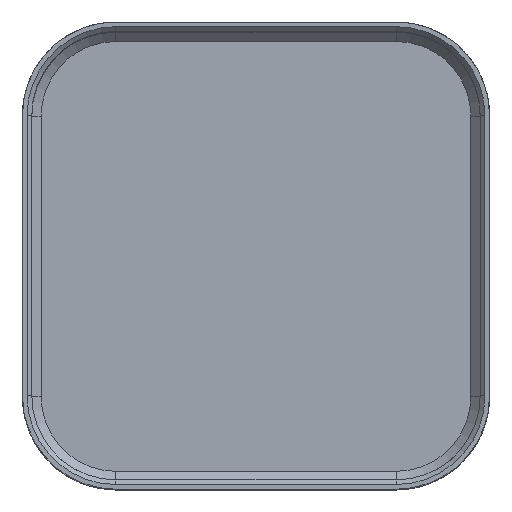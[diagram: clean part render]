
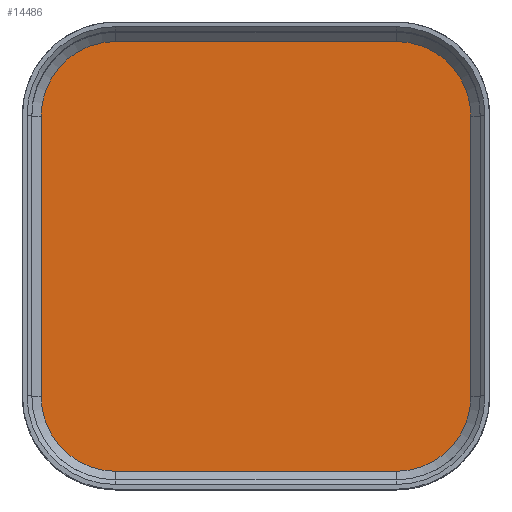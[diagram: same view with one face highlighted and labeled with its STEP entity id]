
A CAD part, top view. The second image highlights one B-rep face of the part: STEP entity #14486.
In plain terms, the highlighted planar face has unit normal (0, 0, 1).
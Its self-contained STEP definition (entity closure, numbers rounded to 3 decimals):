
#2234=CIRCLE('',#14963,16.);
#2236=CIRCLE('',#14967,16.);
#2238=CIRCLE('',#14971,16.);
#2240=CIRCLE('',#14975,16.);
#2906=FACE_OUTER_BOUND('',#3564,.T.);
#3564=EDGE_LOOP('',(#10362,#10363,#10364,#10365,#10366,#10367,#10368,#10369));
#4582=LINE('',#19130,#5200);
#4587=LINE('',#19144,#5205);
#4591=LINE('',#19156,#5209);
#4595=LINE('',#19168,#5213);
#5200=VECTOR('',#16147,10.);
#5205=VECTOR('',#16160,10.);
#5209=VECTOR('',#16172,10.);
#5213=VECTOR('',#16184,10.);
#5818=VERTEX_POINT('',#19127);
#5819=VERTEX_POINT('',#19129);
#5822=VERTEX_POINT('',#19136);
#5824=VERTEX_POINT('',#19142);
#5826=VERTEX_POINT('',#19148);
#5828=VERTEX_POINT('',#19154);
#5830=VERTEX_POINT('',#19160);
#5832=VERTEX_POINT('',#19166);
#7534=EDGE_CURVE('',#5818,#5819,#4582,.T.);
#7538=EDGE_CURVE('',#5822,#5818,#2234,.T.);
#7541=EDGE_CURVE('',#5824,#5822,#4587,.T.);
#7544=EDGE_CURVE('',#5826,#5824,#2236,.T.);
#7547=EDGE_CURVE('',#5828,#5826,#4591,.T.);
#7550=EDGE_CURVE('',#5830,#5828,#2238,.T.);
#7553=EDGE_CURVE('',#5832,#5830,#4595,.T.);
#7555=EDGE_CURVE('',#5819,#5832,#2240,.T.);
#10362=ORIENTED_EDGE('',*,*,#7534,.F.);
#10363=ORIENTED_EDGE('',*,*,#7538,.F.);
#10364=ORIENTED_EDGE('',*,*,#7541,.F.);
#10365=ORIENTED_EDGE('',*,*,#7544,.F.);
#10366=ORIENTED_EDGE('',*,*,#7547,.F.);
#10367=ORIENTED_EDGE('',*,*,#7550,.F.);
#10368=ORIENTED_EDGE('',*,*,#7553,.F.);
#10369=ORIENTED_EDGE('',*,*,#7555,.F.);
#14457=PLANE('',#15153);
#14486=ADVANCED_FACE('',(#2906),#14457,.T.);
#14963=AXIS2_PLACEMENT_3D('',#19138,#16153,#16154);
#14967=AXIS2_PLACEMENT_3D('',#19150,#16165,#16166);
#14971=AXIS2_PLACEMENT_3D('',#19162,#16177,#16178);
#14975=AXIS2_PLACEMENT_3D('',#19171,#16188,#16189);
#15153=AXIS2_PLACEMENT_3D('',#22711,#16586,#16587);
#16147=DIRECTION('',(1.,0.,0.));
#16153=DIRECTION('center_axis',(0.,0.,-1.));
#16154=DIRECTION('ref_axis',(0.,1.,0.));
#16160=DIRECTION('',(0.,1.,0.));
#16165=DIRECTION('center_axis',(0.,0.,-1.));
#16166=DIRECTION('ref_axis',(-1.,0.,0.));
#16172=DIRECTION('',(-1.,0.,0.));
#16177=DIRECTION('center_axis',(0.,0.,-1.));
#16178=DIRECTION('ref_axis',(0.,-1.,0.));
#16184=DIRECTION('',(0.,-1.,0.));
#16188=DIRECTION('center_axis',(0.,0.,-1.));
#16189=DIRECTION('ref_axis',(1.,0.,0.));
#16586=DIRECTION('center_axis',(0.,0.,1.));
#16587=DIRECTION('ref_axis',(1.,0.,0.));
#19127=CARTESIAN_POINT('',(-30.,46.,2.));
#19129=CARTESIAN_POINT('',(30.,46.,2.));
#19130=CARTESIAN_POINT('',(15.,46.,2.));
#19136=CARTESIAN_POINT('',(-46.,30.,2.));
#19138=CARTESIAN_POINT('Origin',(-30.,30.,2.));
#19142=CARTESIAN_POINT('',(-46.,-30.,2.));
#19144=CARTESIAN_POINT('',(-46.,15.,2.));
#19148=CARTESIAN_POINT('',(-30.,-46.,2.));
#19150=CARTESIAN_POINT('Origin',(-30.,-30.,2.));
#19154=CARTESIAN_POINT('',(30.,-46.,2.));
#19156=CARTESIAN_POINT('',(-15.,-46.,2.));
#19160=CARTESIAN_POINT('',(46.,-30.,2.));
#19162=CARTESIAN_POINT('Origin',(30.,-30.,2.));
#19166=CARTESIAN_POINT('',(46.,30.,2.));
#19168=CARTESIAN_POINT('',(46.,-15.,2.));
#19171=CARTESIAN_POINT('Origin',(30.,30.,2.));
#22711=CARTESIAN_POINT('Origin',(0.,0.,2.));
